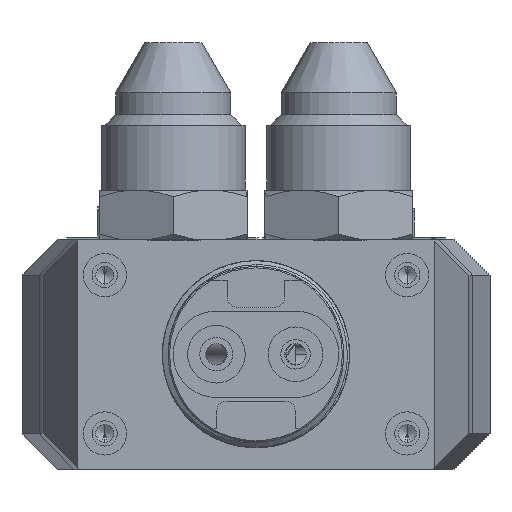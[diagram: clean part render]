
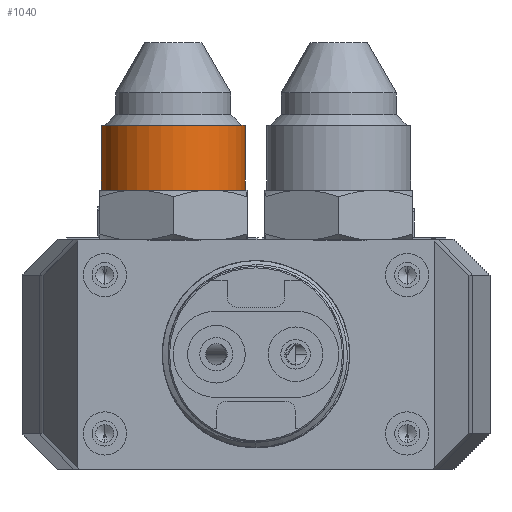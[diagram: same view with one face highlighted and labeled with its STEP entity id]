
A CAD part, front view. The second image highlights one B-rep face of the part: STEP entity #1040.
In plain terms, the highlighted cylindrical face has radius 10 mm (diameter 20 mm), a partial arc.
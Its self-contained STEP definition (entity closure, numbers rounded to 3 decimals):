
#184 = ORIENTED_EDGE ( 'NONE', *, *, #13926, .T. ) ;
#503 = LINE ( 'NONE', #21370, #17935 ) ;
#816 = CARTESIAN_POINT ( 'NONE',  ( -84.455, -144.23, 1052.575 ) ) ;
#1040 = ADVANCED_FACE ( 'NONE', ( #37377 ), #9082, .T. ) ;
#1215 = CARTESIAN_POINT ( 'NONE',  ( -84.455, -144.23, 1021.303 ) ) ;
#2306 = EDGE_CURVE ( 'NONE', #6660, #36585, #52846, .T. ) ;
#4456 = EDGE_CURVE ( 'NONE', #6073, #37760, #37991, .T. ) ;
#4652 = LINE ( 'NONE', #42982, #47687 ) ;
#6073 = VERTEX_POINT ( 'NONE', #7513 ) ;
#6660 = VERTEX_POINT ( 'NONE', #28265 ) ;
#7513 = CARTESIAN_POINT ( 'NONE',  ( -74.455, -144.23, 1030.303 ) ) ;
#8726 = DIRECTION ( 'NONE',  ( 1., 0., 0. ) ) ;
#9082 = CYLINDRICAL_SURFACE ( 'NONE', #15223, 10. ) ;
#10946 = CARTESIAN_POINT ( 'NONE',  ( -94.455, -144.23, 1030.303 ) ) ;
#12307 = ORIENTED_EDGE ( 'NONE', *, *, #26525, .F. ) ;
#12768 = DIRECTION ( 'NONE',  ( 0., 0., -1. ) ) ;
#12786 = AXIS2_PLACEMENT_3D ( 'NONE', #1215, #17518, #8726 ) ;
#13926 = EDGE_CURVE ( 'NONE', #36585, #6073, #4652, .T. ) ;
#15223 = AXIS2_PLACEMENT_3D ( 'NONE', #816, #25372, #41644 ) ;
#16317 = DIRECTION ( 'NONE',  ( 0., 0., 1. ) ) ;
#17479 = DIRECTION ( 'NONE',  ( 0., 0., 1. ) ) ;
#17518 = DIRECTION ( 'NONE',  ( 0., 0., 1. ) ) ;
#17935 = VECTOR ( 'NONE', #16317, 1000. ) ;
#19840 = EDGE_LOOP ( 'NONE', ( #12307, #51487, #184, #29478 ) ) ;
#21370 = CARTESIAN_POINT ( 'NONE',  ( -94.455, -144.23, 1052.575 ) ) ;
#24511 = DIRECTION ( 'NONE',  ( 1., 0., 0. ) ) ;
#25372 = DIRECTION ( 'NONE',  ( 0., 0., 1. ) ) ;
#26525 = EDGE_CURVE ( 'NONE', #6660, #37760, #503, .T. ) ;
#28265 = CARTESIAN_POINT ( 'NONE',  ( -94.455, -144.23, 1021.303 ) ) ;
#29478 = ORIENTED_EDGE ( 'NONE', *, *, #4456, .T. ) ;
#33037 = CARTESIAN_POINT ( 'NONE',  ( -74.455, -144.23, 1021.303 ) ) ;
#36585 = VERTEX_POINT ( 'NONE', #33037 ) ;
#37377 = FACE_OUTER_BOUND ( 'NONE', #19840, .T. ) ;
#37760 = VERTEX_POINT ( 'NONE', #10946 ) ;
#37991 = CIRCLE ( 'NONE', #38870, 10. ) ;
#38870 = AXIS2_PLACEMENT_3D ( 'NONE', #44758, #12768, #24511 ) ;
#41644 = DIRECTION ( 'NONE',  ( 1., 0., 0. ) ) ;
#42982 = CARTESIAN_POINT ( 'NONE',  ( -74.455, -144.23, 1052.575 ) ) ;
#44758 = CARTESIAN_POINT ( 'NONE',  ( -84.455, -144.23, 1030.303 ) ) ;
#47687 = VECTOR ( 'NONE', #17479, 1000. ) ;
#51487 = ORIENTED_EDGE ( 'NONE', *, *, #2306, .T. ) ;
#52846 = CIRCLE ( 'NONE', #12786, 10. ) ;
